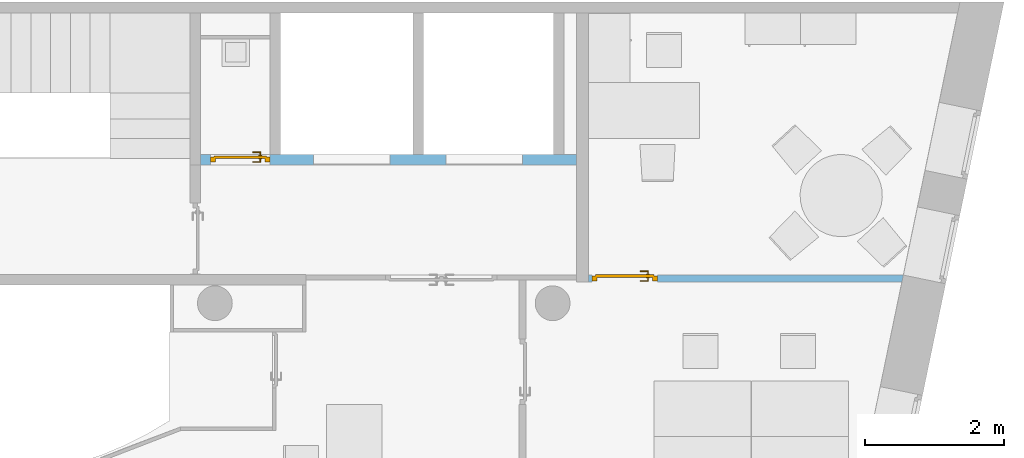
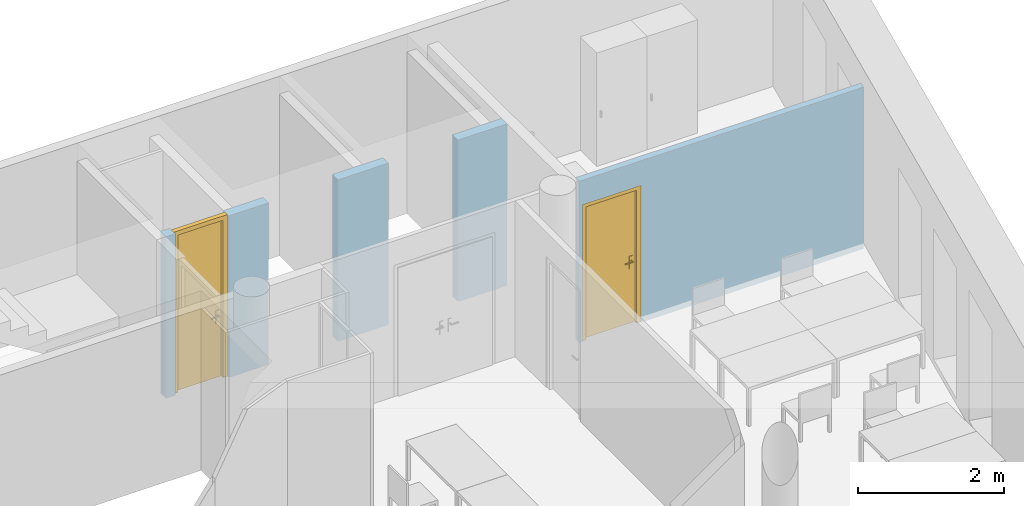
"""IFC4 building model written with IfcOpenShell, lengths in metres."""

from ifc_helpers import new_model, entity, si_unit, converted_unit, derived_unit, frame, frame_2d, origin, origin_with_axes, place, context, subcontext, project, spatial, polyline, rectangle, outline, extrude, faceted_brep, source, transform, mapped, material, layer, layer_set, layer_usage, element, fill, save


model = new_model("IFC4")

# Units and contexts
model_context = context("Model", 3, precision=1e-05, world=origin())
body_context = subcontext(model_context, "Body", "Model", "MODEL_VIEW")
ifc_project = project(units=[si_unit("LENGTHUNIT", "METRE"), si_unit("AREAUNIT", "SQUARE_METRE"), si_unit("VOLUMEUNIT", "CUBIC_METRE"), si_unit("MASSUNIT", "GRAM", prefix="KILO"), converted_unit("PLANEANGLEUNIT", "DEGREE", entity("IfcPlaneAngleMeasure", 0.0174532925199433), si_unit("PLANEANGLEUNIT", "RADIAN"), dimensions=[0, 0, 0, 0, 0, 0, 0]), derived_unit("THERMALTRANSMITTANCEUNIT", [(si_unit("POWERUNIT", "WATT"), 1), (si_unit("THERMODYNAMICTEMPERATUREUNIT", "KELVIN"), -1), (si_unit("LENGTHUNIT", "METRE"), -2)]), derived_unit("VOLUMETRICFLOWRATEUNIT", [(si_unit("LENGTHUNIT", "METRE"), 3), (converted_unit("TIMEUNIT", "hour", entity("IfcTimeMeasure", 3600.0), si_unit("TIMEUNIT", "SECOND"), dimensions=[0, 0, 1, 0, 0, 0, 0]), -1), (si_unit("LENGTHUNIT", "METRE"), -1)])], contexts=[model_context])

# Building, storeys
building_placement = place(None, origin())
building = spatial("IfcBuilding", under=ifc_project, at=building_placement, Name="HABITATGE PLURIFAMILIAR", CompositionType="ELEMENT")
storey_1_placement = place(building_placement, frame((0.0, 0.0, 9.26)))
storey_1 = spatial("IfcBuildingStorey", under=building, at=storey_1_placement, Name="PLANTA SEGONA", CompositionType="ELEMENT", Elevation=9.26)
storey_2_placement = place(storey_1_placement, frame((0.0, 0.0, 6.25)))
storey_2 = spatial("IfcBuildingStorey", under=storey_1, at=storey_2_placement, Name="NOU", CompositionType="PARTIAL")

# Wall, openings, door
ifc_material_1 = material()
ifc_layer_1 = layer(ifc_material_1, 0.15)
ifc_layer_set_1 = layer_set([ifc_layer_1])
ifc_layer_usage_1 = layer_usage(ifc_layer_set_1, "AXIS2", "POSITIVE", 0.0)
wall_1_placement = place(storey_2_placement, frame((415.930797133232, 25.8894598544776, -6.35)))
wall_1 = element("IfcWall", 1, at=wall_1_placement, inside=storey_2, material=ifc_layer_usage_1, Name="Evans P2", context=body_context, shape_type="SweptSolid", body=[
    extrude(rectangle(XDim=5.40618764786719, YDim=0.15, at=frame_2d((2.7030938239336, 0.075), x_axis=(1.0, 0.0))), origin_with_axes(), (0.0, 0.0, 1.0), 2.71),
])
opening_1_placement = place(wall_1_placement, frame((0.146187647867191, 0.0, 0.0), z_axis=(0.0, 1.0, 0.0), x_axis=(0.0, 0.0, 1.0)))
opening_1 = element("IfcOpeningElement", 2, at=opening_1_placement, cuts=wall_1, Name="Vano puerta", ObjectType="Opening", context=body_context, shape_type="SweptSolid", body=[
    extrude(outline(polyline([(2.71, 0.850000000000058), (2.71, 0.0), (0.0, 0.0), (0.0, 0.850000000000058), (2.71, 0.850000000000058)])), origin_with_axes(), (0.0, 0.0, 1.0), 0.15),
])
opening_2_placement = place(wall_1_placement, frame((3.52618764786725, 0.0, 0.0), z_axis=(0.0, 1.0, 0.0), x_axis=(0.0, 0.0, 1.0)))
element("IfcOpeningElement", 3, at=opening_2_placement, cuts=wall_1, Name="Vano puerta", ObjectType="Opening", context=body_context, shape_type="SweptSolid", body=[
    extrude(outline(polyline([(2.71, 1.1), (2.71, 0.0), (0.0, 0.0), (0.0, 1.1), (2.71, 1.1)])), origin_with_axes(), (0.0, 0.0, 1.0), 0.15),
])
opening_3_placement = place(wall_1_placement, frame((1.62618764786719, 0.0, 0.0), z_axis=(0.0, 1.0, 0.0), x_axis=(0.0, 0.0, 1.0)))
element("IfcOpeningElement", 4, at=opening_3_placement, cuts=wall_1, Name="Vano puerta", ObjectType="Opening", context=body_context, shape_type="SweptSolid", body=[
    extrude(outline(polyline([(2.71, 1.1), (2.71, 0.0), (0.0, 0.0), (0.0, 1.1), (2.71, 1.1)])), origin_with_axes(), (0.0, 0.0, 1.0), 0.15),
])
shared_shape_1 = source(origin_with_axes(), body_context, "Body", "Brep", [
    faceted_brep([(0.850000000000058, 0.07, 2.71), (0.780000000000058, 0.07, 2.71), (0.780000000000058, 0.07, 0.0), (0.850000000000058, 0.07, 0.0), (0.850000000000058, 0.0, 0.0), (0.780000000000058, 0.0, 0.0), (0.780000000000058, 0.0, 2.71), (0.850000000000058, 0.0, 2.71)], [[[0, 1, 2, 3]], [[4, 5, 6, 7]], [[3, 4, 7, 0]], [[2, 5, 4, 3]], [[1, 6, 5, 2]], [[0, 7, 6, 1]]], orient=[[False], [False], [False], [False], [False], [False]]),
    faceted_brep([(0.0700000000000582, 0.07, 2.71), (0.0, 0.07, 2.71), (0.0, 0.07, 0.0), (0.0700000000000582, 0.07, 0.0), (0.0700000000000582, 0.0, 0.0), (0.0, 0.0, 0.0), (0.0, 0.0, 2.71), (0.0700000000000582, 0.0, 2.71)], [[[0, 1, 2, 3]], [[4, 5, 6, 7]], [[3, 4, 7, 0]], [[2, 5, 4, 3]], [[1, 6, 5, 2]], [[0, 7, 6, 1]]], orient=[[False], [False], [False], [False], [False], [False]]),
    faceted_brep([(0.780000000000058, 0.07, 2.71), (0.0700000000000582, 0.07, 2.71), (0.0700000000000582, 0.07, 2.64), (0.780000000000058, 0.07, 2.64), (0.780000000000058, 0.0, 2.64), (0.0700000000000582, 0.0, 2.64), (0.0700000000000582, 0.0, 2.71), (0.780000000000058, 0.0, 2.71)], [[[0, 1, 2, 3]], [[4, 5, 6, 7]], [[3, 4, 7, 0]], [[2, 5, 4, 3]], [[1, 6, 5, 2]], [[0, 7, 6, 1]]], orient=[[False], [False], [False], [False], [False], [False]]),
    faceted_brep([(0.800000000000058, 0.09, 2.66), (0.0500000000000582, 0.09, 2.66), (0.0500000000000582, 0.09, 0.0), (0.800000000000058, 0.09, 0.0), (0.800000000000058, 0.05, 0.0), (0.0500000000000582, 0.05, 0.0), (0.0500000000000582, 0.05, 2.66), (0.800000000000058, 0.05, 2.66)], [[[0, 1, 2, 3]], [[4, 5, 6, 7]], [[3, 4, 7, 0]], [[2, 5, 4, 3]], [[1, 6, 5, 2]], [[0, 7, 6, 1]]], orient=[[False], [False], [False], [False], [False], [False]]),
    faceted_brep([(0.740000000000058, 0.05, 1.125), (0.690000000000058, 0.05, 1.125), (0.690000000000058, 0.05, 0.91), (0.740000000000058, 0.05, 0.91), (0.740000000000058, 0.04, 0.91), (0.690000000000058, 0.04, 0.91), (0.690000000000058, 0.04, 1.125), (0.740000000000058, 0.04, 1.125)], [[[0, 1, 2, 3]], [[4, 5, 6, 7]], [[3, 4, 7, 0]], [[2, 5, 4, 3]], [[1, 6, 5, 2]], [[0, 7, 6, 1]]], orient=[[False], [False], [False], [False], [False], [False]]),
    faceted_brep([(0.715000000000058, 0.04, 1.06), (0.710000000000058, 0.04, 1.05866025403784), (0.706339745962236, 0.04, 1.055), (0.705000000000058, 0.04, 1.05), (0.706339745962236, 0.04, 1.045), (0.710000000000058, 0.04, 1.04133974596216), (0.715000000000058, 0.04, 1.04), (0.720000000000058, 0.04, 1.04133974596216), (0.723660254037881, 0.04, 1.045), (0.725000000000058, 0.04, 1.05), (0.723660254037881, 0.04, 1.055), (0.720000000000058, 0.04, 1.05866025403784), (0.720000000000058, -0.005, 1.05866025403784), (0.715000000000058, 0.0, 1.06), (0.723660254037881, -0.00866025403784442, 1.055), (0.725000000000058, -0.01, 1.05), (0.723660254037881, -0.00866025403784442, 1.045), (0.720000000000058, -0.005, 1.04133974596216), (0.715000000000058, 0.0, 1.04), (0.710000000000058, 0.005, 1.04133974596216), (0.706339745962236, 0.00866025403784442, 1.045), (0.705000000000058, 0.01, 1.05), (0.706339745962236, 0.00866025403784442, 1.055), (0.710000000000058, 0.005, 1.05866025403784), (0.600000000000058, 0.0, 1.06), (0.600000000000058, -0.005, 1.05866025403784), (0.600000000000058, -0.00866025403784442, 1.055), (0.600000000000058, -0.01, 1.05), (0.600000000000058, -0.00866025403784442, 1.045), (0.600000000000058, -0.005, 1.04133974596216), (0.600000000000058, 0.0, 1.04), (0.600000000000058, 0.005, 1.04133974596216), (0.600000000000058, 0.00866025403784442, 1.045), (0.600000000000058, 0.01, 1.05), (0.600000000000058, 0.00866025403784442, 1.055), (0.600000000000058, 0.005, 1.05866025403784)], [[[0, 1, 2, 3, 4, 5, 6, 7, 8, 9, 10, 11]], [[0, 11, 12, 13]], [[11, 10, 14, 12]], [[10, 9, 15, 14]], [[9, 8, 16, 15]], [[8, 7, 17, 16]], [[7, 6, 18, 17]], [[6, 5, 19, 18]], [[5, 4, 20, 19]], [[4, 3, 21, 20]], [[3, 2, 22, 21]], [[2, 1, 23, 22]], [[1, 0, 13, 23]], [[24, 25, 26, 27, 28, 29, 30, 31, 32, 33, 34, 35]], [[13, 12, 25, 24]], [[12, 14, 26, 25]], [[14, 15, 27, 26]], [[15, 16, 28, 27]], [[16, 17, 29, 28]], [[17, 18, 30, 29]], [[18, 19, 31, 30]], [[19, 20, 32, 31]], [[20, 21, 33, 32]], [[21, 22, 34, 33]], [[22, 23, 35, 34]], [[23, 13, 24, 35]]], orient=[[False], [False], [False], [False], [False], [False], [False], [False], [False], [False], [False], [False], [False], [False], [False], [False], [False], [False], [False], [False], [False], [False], [False], [False], [False], [False]]),
    faceted_brep([(0.740000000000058, 0.09, 1.125), (0.740000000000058, 0.09, 0.91), (0.690000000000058, 0.09, 0.91), (0.690000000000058, 0.09, 1.125), (0.740000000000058, 0.1, 0.91), (0.740000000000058, 0.1, 1.125), (0.690000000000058, 0.1, 1.125), (0.690000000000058, 0.1, 0.91)], [[[0, 1, 2, 3]], [[4, 5, 6, 7]], [[1, 0, 5, 4]], [[2, 1, 4, 7]], [[3, 2, 7, 6]], [[0, 3, 6, 5]]], orient=[[False], [False], [False], [False], [False], [False]]),
    faceted_brep([(0.715000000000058, 0.1, 1.06), (0.720000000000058, 0.1, 1.05866025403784), (0.723660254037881, 0.1, 1.055), (0.725000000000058, 0.1, 1.05), (0.723660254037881, 0.1, 1.045), (0.720000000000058, 0.1, 1.04133974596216), (0.715000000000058, 0.1, 1.04), (0.710000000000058, 0.1, 1.04133974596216), (0.706339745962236, 0.1, 1.045), (0.705000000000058, 0.1, 1.05), (0.706339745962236, 0.1, 1.055), (0.710000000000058, 0.1, 1.05866025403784), (0.715000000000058, 0.14, 1.06), (0.720000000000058, 0.145, 1.05866025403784), (0.723660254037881, 0.148660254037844, 1.055), (0.725000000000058, 0.15, 1.05), (0.723660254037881, 0.148660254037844, 1.045), (0.720000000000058, 0.145, 1.04133974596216), (0.715000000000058, 0.14, 1.04), (0.710000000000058, 0.135, 1.04133974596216), (0.706339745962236, 0.131339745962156, 1.045), (0.705000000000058, 0.13, 1.05), (0.706339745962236, 0.131339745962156, 1.055), (0.710000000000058, 0.135, 1.05866025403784), (0.600000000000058, 0.14, 1.06), (0.600000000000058, 0.135, 1.05866025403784), (0.600000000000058, 0.131339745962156, 1.055), (0.600000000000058, 0.13, 1.05), (0.600000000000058, 0.131339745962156, 1.045), (0.600000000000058, 0.135, 1.04133974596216), (0.600000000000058, 0.14, 1.04), (0.600000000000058, 0.145, 1.04133974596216), (0.600000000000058, 0.148660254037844, 1.045), (0.600000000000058, 0.15, 1.05), (0.600000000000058, 0.148660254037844, 1.055), (0.600000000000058, 0.145, 1.05866025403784)], [[[0, 1, 2, 3, 4, 5, 6, 7, 8, 9, 10, 11]], [[0, 12, 13, 1]], [[1, 13, 14, 2]], [[2, 14, 15, 3]], [[3, 15, 16, 4]], [[4, 16, 17, 5]], [[5, 17, 18, 6]], [[6, 18, 19, 7]], [[7, 19, 20, 8]], [[8, 20, 21, 9]], [[9, 21, 22, 10]], [[10, 22, 23, 11]], [[11, 23, 12, 0]], [[24, 25, 26, 27, 28, 29, 30, 31, 32, 33, 34, 35]], [[12, 24, 35, 13]], [[13, 35, 34, 14]], [[14, 34, 33, 15]], [[15, 33, 32, 16]], [[16, 32, 31, 17]], [[17, 31, 30, 18]], [[18, 30, 29, 19]], [[19, 29, 28, 20]], [[20, 28, 27, 21]], [[21, 27, 26, 22]], [[22, 26, 25, 23]], [[23, 25, 24, 12]]], orient=[[False], [False], [False], [False], [False], [False], [False], [False], [False], [False], [False], [False], [False], [False], [False], [False], [False], [False], [False], [False], [False], [False], [False], [False], [False], [False]]),
])
door_1_placement = place(opening_1_placement, frame((0.0, 0.0, 0.04), z_axis=(1.0, 0.0, 0.0), x_axis=(0.0, 1.0, 0.0)))
door_1 = element("IfcDoor", 5, at=door_1_placement, inside=storey_2, Name="Porta P2", OperationType="USERDEFINED", OverallHeight=2.71, OverallWidth=0.85, PredefinedType="DOOR", context=body_context, shape_type="MappedRepresentation", body=[
    mapped(shared_shape_1, transform((0.0, 0.0, 0.0), x_axis=(1.0, 0.0, 0.0), y_axis=(0.0, 1.0, 0.0), z_axis=(0.0, 0.0, 1.0), scale=1.0)),
])
fill(opening_1, door_1)

# Wall, opening, door
ifc_material_2 = material()
ifc_layer_2 = layer(ifc_material_2, 0.1)
ifc_layer_set_2 = layer_set([ifc_layer_2])
ifc_layer_usage_2 = layer_usage(ifc_layer_set_2, "AXIS2", "POSITIVE", 0.0)
wall_2_placement = place(storey_2_placement, frame((426.033312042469, 24.3047894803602, -6.35), z_axis=(0.0, 0.0, 1.0), x_axis=(-1.0, 0.0, 0.0)))
wall_2 = element("IfcWall", 6, at=wall_2_placement, inside=storey_2, material=ifc_layer_usage_2, Name="Mampara P2", context=body_context, shape_type="SweptSolid", body=[
    extrude(outline(polyline([(-4.52632726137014, -0.1), (0.0, -0.1), (0.0, 0.0), (-4.50560331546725, 0.0), (-4.52632726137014, -0.1)])), frame((4.52632726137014, 0.1, 0.0), z_axis=(0.0, 0.0, 1.0), x_axis=(1.0, 0.0, 0.0)), (0.0, 0.0, 1.0), 2.71),
])
opening_4_placement = place(wall_2_placement, frame((3.53632726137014, 0.0, 0.0), z_axis=(0.0, 1.0, 0.0), x_axis=(0.0, 0.0, 1.0)))
opening_4 = element("IfcOpeningElement", 7, at=opening_4_placement, cuts=wall_2, Name="Vano puerta", ObjectType="Opening", context=body_context, shape_type="SweptSolid", body=[
    extrude(outline(polyline([(2.3, 0.94), (2.3, 0.0), (0.0, 0.0), (0.0, 0.94), (2.3, 0.94)])), origin_with_axes(), (0.0, 0.0, 1.0), 0.1),
])
shared_shape_2 = source(origin_with_axes(), body_context, "Body", "Brep", [
    faceted_brep([(0.94, 0.07, 2.3), (0.87, 0.07, 2.3), (0.87, 0.07, 0.0), (0.94, 0.07, 0.0), (0.94, 0.0, 0.0), (0.87, 0.0, 0.0), (0.87, 0.0, 2.3), (0.94, 0.0, 2.3)], [[[0, 1, 2, 3]], [[4, 5, 6, 7]], [[3, 4, 7, 0]], [[2, 5, 4, 3]], [[1, 6, 5, 2]], [[0, 7, 6, 1]]], orient=[[False], [False], [False], [False], [False], [False]]),
    faceted_brep([(0.07, 0.07, 2.3), (0.0, 0.07, 2.3), (0.0, 0.07, 0.0), (0.07, 0.07, 0.0), (0.07, 0.0, 0.0), (0.0, 0.0, 0.0), (0.0, 0.0, 2.3), (0.07, 0.0, 2.3)], [[[0, 1, 2, 3]], [[4, 5, 6, 7]], [[3, 4, 7, 0]], [[2, 5, 4, 3]], [[1, 6, 5, 2]], [[0, 7, 6, 1]]], orient=[[False], [False], [False], [False], [False], [False]]),
    faceted_brep([(0.87, 0.07, 2.3), (0.07, 0.07, 2.3), (0.07, 0.07, 2.23), (0.87, 0.07, 2.23), (0.87, 0.0, 2.23), (0.07, 0.0, 2.23), (0.07, 0.0, 2.3), (0.87, 0.0, 2.3)], [[[0, 1, 2, 3]], [[4, 5, 6, 7]], [[3, 4, 7, 0]], [[2, 5, 4, 3]], [[1, 6, 5, 2]], [[0, 7, 6, 1]]], orient=[[False], [False], [False], [False], [False], [False]]),
    faceted_brep([(0.89, 0.09, 2.25), (0.05, 0.09, 2.25), (0.05, 0.09, 0.0), (0.89, 0.09, 0.0), (0.89, 0.05, 0.0), (0.05, 0.05, 0.0), (0.05, 0.05, 2.25), (0.89, 0.05, 2.25)], [[[0, 1, 2, 3]], [[4, 5, 6, 7]], [[3, 4, 7, 0]], [[2, 5, 4, 3]], [[1, 6, 5, 2]], [[0, 7, 6, 1]]], orient=[[False], [False], [False], [False], [False], [False]]),
    faceted_brep([(0.83, 0.05, 1.125), (0.78, 0.05, 1.125), (0.78, 0.05, 0.91), (0.83, 0.05, 0.91), (0.83, 0.04, 0.91), (0.78, 0.04, 0.91), (0.78, 0.04, 1.125), (0.83, 0.04, 1.125)], [[[0, 1, 2, 3]], [[4, 5, 6, 7]], [[3, 4, 7, 0]], [[2, 5, 4, 3]], [[1, 6, 5, 2]], [[0, 7, 6, 1]]], orient=[[False], [False], [False], [False], [False], [False]]),
    faceted_brep([(0.805, 0.04, 1.06), (0.8, 0.04, 1.05866025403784), (0.796339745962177, 0.04, 1.055), (0.795, 0.04, 1.05), (0.796339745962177, 0.04, 1.045), (0.8, 0.04, 1.04133974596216), (0.805, 0.04, 1.04), (0.81, 0.04, 1.04133974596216), (0.813660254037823, 0.04, 1.045), (0.815, 0.04, 1.05), (0.813660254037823, 0.04, 1.055), (0.81, 0.04, 1.05866025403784), (0.81, -0.005, 1.05866025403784), (0.805, 0.0, 1.06), (0.813660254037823, -0.00866025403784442, 1.055), (0.815, -0.01, 1.05), (0.813660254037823, -0.00866025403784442, 1.045), (0.81, -0.005, 1.04133974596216), (0.805, 0.0, 1.04), (0.8, 0.005, 1.04133974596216), (0.796339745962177, 0.00866025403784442, 1.045), (0.795, 0.01, 1.05), (0.796339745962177, 0.00866025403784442, 1.055), (0.8, 0.005, 1.05866025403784), (0.69, 0.0, 1.06), (0.69, -0.005, 1.05866025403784), (0.69, -0.00866025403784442, 1.055), (0.69, -0.01, 1.05), (0.69, -0.00866025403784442, 1.045), (0.69, -0.005, 1.04133974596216), (0.69, 0.0, 1.04), (0.69, 0.005, 1.04133974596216), (0.69, 0.00866025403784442, 1.045), (0.69, 0.01, 1.05), (0.69, 0.00866025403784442, 1.055), (0.69, 0.005, 1.05866025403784)], [[[0, 1, 2, 3, 4, 5, 6, 7, 8, 9, 10, 11]], [[0, 11, 12, 13]], [[11, 10, 14, 12]], [[10, 9, 15, 14]], [[9, 8, 16, 15]], [[8, 7, 17, 16]], [[7, 6, 18, 17]], [[6, 5, 19, 18]], [[5, 4, 20, 19]], [[4, 3, 21, 20]], [[3, 2, 22, 21]], [[2, 1, 23, 22]], [[1, 0, 13, 23]], [[24, 25, 26, 27, 28, 29, 30, 31, 32, 33, 34, 35]], [[13, 12, 25, 24]], [[12, 14, 26, 25]], [[14, 15, 27, 26]], [[15, 16, 28, 27]], [[16, 17, 29, 28]], [[17, 18, 30, 29]], [[18, 19, 31, 30]], [[19, 20, 32, 31]], [[20, 21, 33, 32]], [[21, 22, 34, 33]], [[22, 23, 35, 34]], [[23, 13, 24, 35]]], orient=[[False], [False], [False], [False], [False], [False], [False], [False], [False], [False], [False], [False], [False], [False], [False], [False], [False], [False], [False], [False], [False], [False], [False], [False], [False], [False]]),
    faceted_brep([(0.83, 0.09, 1.125), (0.83, 0.09, 0.91), (0.78, 0.09, 0.91), (0.78, 0.09, 1.125), (0.83, 0.1, 0.91), (0.83, 0.1, 1.125), (0.78, 0.1, 1.125), (0.78, 0.1, 0.91)], [[[0, 1, 2, 3]], [[4, 5, 6, 7]], [[1, 0, 5, 4]], [[2, 1, 4, 7]], [[3, 2, 7, 6]], [[0, 3, 6, 5]]], orient=[[False], [False], [False], [False], [False], [False]]),
    faceted_brep([(0.805, 0.1, 1.06), (0.81, 0.1, 1.05866025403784), (0.813660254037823, 0.1, 1.055), (0.815, 0.1, 1.05), (0.813660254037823, 0.1, 1.045), (0.81, 0.1, 1.04133974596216), (0.805, 0.1, 1.04), (0.8, 0.1, 1.04133974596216), (0.796339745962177, 0.1, 1.045), (0.795, 0.1, 1.05), (0.796339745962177, 0.1, 1.055), (0.8, 0.1, 1.05866025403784), (0.805, 0.14, 1.06), (0.81, 0.145, 1.05866025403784), (0.813660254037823, 0.148660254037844, 1.055), (0.815, 0.15, 1.05), (0.813660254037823, 0.148660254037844, 1.045), (0.81, 0.145, 1.04133974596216), (0.805, 0.14, 1.04), (0.8, 0.135, 1.04133974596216), (0.796339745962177, 0.131339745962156, 1.045), (0.795, 0.13, 1.05), (0.796339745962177, 0.131339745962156, 1.055), (0.8, 0.135, 1.05866025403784), (0.69, 0.14, 1.06), (0.69, 0.135, 1.05866025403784), (0.69, 0.131339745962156, 1.055), (0.69, 0.13, 1.05), (0.69, 0.131339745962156, 1.045), (0.69, 0.135, 1.04133974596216), (0.69, 0.14, 1.04), (0.69, 0.145, 1.04133974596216), (0.69, 0.148660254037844, 1.045), (0.69, 0.15, 1.05), (0.69, 0.148660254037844, 1.055), (0.69, 0.145, 1.05866025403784)], [[[0, 1, 2, 3, 4, 5, 6, 7, 8, 9, 10, 11]], [[0, 12, 13, 1]], [[1, 13, 14, 2]], [[2, 14, 15, 3]], [[3, 15, 16, 4]], [[4, 16, 17, 5]], [[5, 17, 18, 6]], [[6, 18, 19, 7]], [[7, 19, 20, 8]], [[8, 20, 21, 9]], [[9, 21, 22, 10]], [[10, 22, 23, 11]], [[11, 23, 12, 0]], [[24, 25, 26, 27, 28, 29, 30, 31, 32, 33, 34, 35]], [[12, 24, 35, 13]], [[13, 35, 34, 14]], [[14, 34, 33, 15]], [[15, 33, 32, 16]], [[16, 32, 31, 17]], [[17, 31, 30, 18]], [[18, 30, 29, 19]], [[19, 29, 28, 20]], [[20, 28, 27, 21]], [[21, 27, 26, 22]], [[22, 26, 25, 23]], [[23, 25, 24, 12]]], orient=[[False], [False], [False], [False], [False], [False], [False], [False], [False], [False], [False], [False], [False], [False], [False], [False], [False], [False], [False], [False], [False], [False], [False], [False], [False], [False]]),
])
door_2_placement = place(opening_4_placement, frame((0.0, 0.94, 0.085), z_axis=(1.0, 0.0, 0.0), x_axis=(0.0, -1.0, 0.0)))
door_2 = element("IfcDoor", 8, at=door_2_placement, inside=storey_2, Name="Porta P2", OperationType="USERDEFINED", OverallHeight=2.3, OverallWidth=0.94, PredefinedType="DOOR", context=body_context, shape_type="MappedRepresentation", body=[
    mapped(shared_shape_2, transform((0.0, 0.0, 0.0), x_axis=(1.0, 0.0, 0.0), y_axis=(0.0, 1.0, 0.0), z_axis=(0.0, 0.0, 1.0), scale=1.0)),
])
fill(opening_4, door_2)

save(model, "model.ifc")
